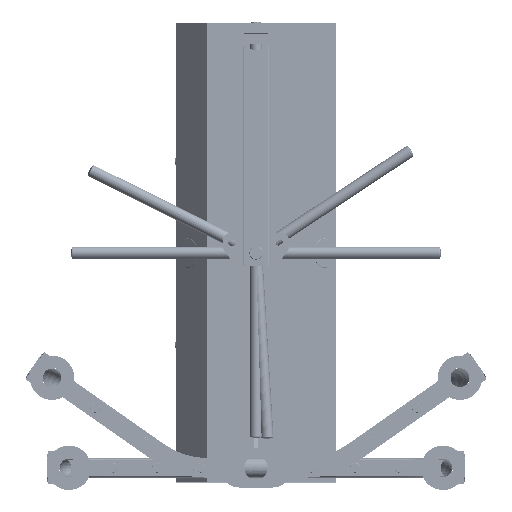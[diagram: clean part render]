
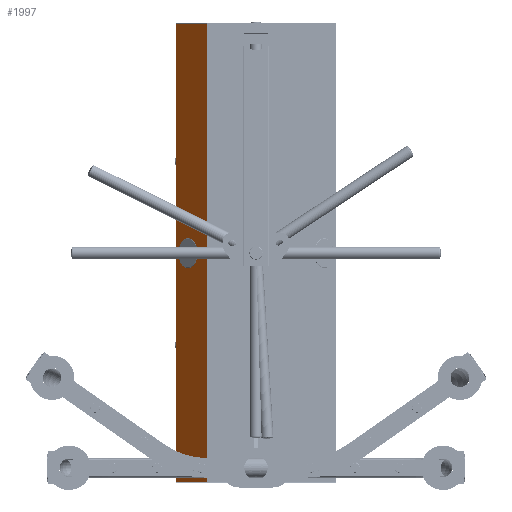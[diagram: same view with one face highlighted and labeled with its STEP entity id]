
A CAD part, front view. The second image highlights one B-rep face of the part: STEP entity #1997.
In plain terms, the highlighted planar face has unit normal (-0.766, -0.643, 0) as drawn and (0, -0.643, -0.766) by its records, which use the part's own axes.
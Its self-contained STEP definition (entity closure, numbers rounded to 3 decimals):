
#129=DIRECTION('',(-1.,0.,0.));
#130=VECTOR('',#129,1397.);
#131=CARTESIAN_POINT('',(698.5,0.5,-150.42));
#132=LINE('',#131,#130);
#137=DIRECTION('',(0.,-0.766,0.643));
#138=VECTOR('',#137,143.838);
#139=CARTESIAN_POINT('',(-698.5,110.686,-242.877));
#140=LINE('',#139,#138);
#141=DIRECTION('',(0.,0.766,-0.643));
#142=VECTOR('',#141,143.838);
#143=CARTESIAN_POINT('',(698.5,0.5,-150.42));
#144=LINE('',#143,#142);
#145=CARTESIAN_POINT('',(0.,67.85,-206.933));
#146=DIRECTION('',(0.,-0.643,-0.766));
#147=DIRECTION('',(1.,0.,0.));
#148=AXIS2_PLACEMENT_3D('',#145,#146,#147);
#150=CARTESIAN_POINT('',(0.,67.85,-206.933));
#151=DIRECTION('',(0.,-0.643,-0.766));
#152=DIRECTION('',(-1.,0.,0.));
#153=AXIS2_PLACEMENT_3D('',#150,#151,#152);
#176=DIRECTION('',(1.,0.,0.));
#177=VECTOR('',#176,1397.);
#178=CARTESIAN_POINT('',(-698.5,110.686,-242.877));
#179=LINE('',#178,#177);
#1513=CARTESIAN_POINT('',(-698.5,0.5,-150.42));
#1514=VERTEX_POINT('',#1513);
#1517=CARTESIAN_POINT('',(698.5,0.5,-150.42));
#1518=VERTEX_POINT('',#1517);
#1519=CARTESIAN_POINT('',(-698.5,110.686,-242.877));
#1520=VERTEX_POINT('',#1519);
#1521=CARTESIAN_POINT('',(698.5,110.686,-242.877));
#1522=VERTEX_POINT('',#1521);
#1523=CARTESIAN_POINT('',(45.,67.85,-206.933));
#1524=CARTESIAN_POINT('',(-45.,67.85,-206.933));
#1525=VERTEX_POINT('',#1523);
#1526=VERTEX_POINT('',#1524);
#1977=CARTESIAN_POINT('',(-698.5,0.,-150.));
#1978=DIRECTION('',(0.,-0.643,-0.766));
#1979=DIRECTION('',(-1.,0.,0.));
#1980=AXIS2_PLACEMENT_3D('',#1977,#1978,#1979);
#1981=PLANE('',#1980);
#1983=ORIENTED_EDGE('',*,*,#1982,.T.);
#1984=ORIENTED_EDGE('',*,*,#1968,.F.);
#1986=ORIENTED_EDGE('',*,*,#1985,.T.);
#1988=ORIENTED_EDGE('',*,*,#1987,.F.);
#1989=EDGE_LOOP('',(#1983,#1984,#1986,#1988));
#1990=FACE_OUTER_BOUND('',#1989,.F.);
#1992=ORIENTED_EDGE('',*,*,#1991,.T.);
#1994=ORIENTED_EDGE('',*,*,#1993,.T.);
#1995=EDGE_LOOP('',(#1992,#1994));
#1996=FACE_BOUND('',#1995,.F.);
#149=CIRCLE('',#148,45.);
#154=CIRCLE('',#153,45.);
#1968=EDGE_CURVE('',#1518,#1514,#132,.T.);
#1982=EDGE_CURVE('',#1520,#1514,#140,.T.);
#1985=EDGE_CURVE('',#1518,#1522,#144,.T.);
#1987=EDGE_CURVE('',#1520,#1522,#179,.T.);
#1991=EDGE_CURVE('',#1525,#1526,#149,.T.);
#1993=EDGE_CURVE('',#1526,#1525,#154,.T.);
#1997=ADVANCED_FACE('',(#1990,#1996),#1981,.T.);
